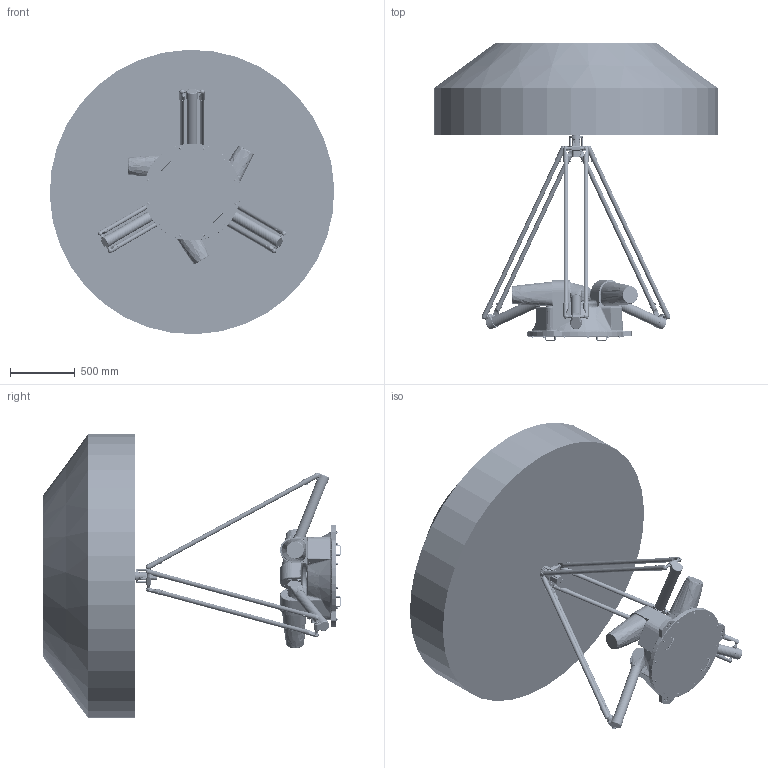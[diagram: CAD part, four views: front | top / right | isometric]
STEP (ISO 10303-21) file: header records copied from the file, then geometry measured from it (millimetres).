
FILE_DESCRIPTION (( 'STEP AP214' ), '1' );
FILE_NAME ('AP15X-2200-1544-T0-V3.0.0.STEP', '2024-12-18T06:51:54', ( '' ), ( '' ), 'SwSTEP 2.0', 'SolidWorks 2017', '' );
FILE_SCHEMA (( 'AUTOMOTIVE_DESIGN' ));
Length unit declared in the file: millimetre
Products named in the file (18): AP25X-2200-1544-T3-V2.0.0; AP15X-2200-1544-T10-V1.0.0; AP15X-2200-1544-T9-V2.0.0; AP15X-2200-1544-T2-V1.0.0; AP15X-2200-1544-T1-V1.0.1; AP15X-2200-1544-T0-V3.0.0
Assembly tree (12 placements, depth 2):
  AP25X-2200-1544-T3-V2.0.0
  AP25X-2200-1544-T3-V2.0.0
  AP25X-2200-1544-T3-V2.0.0
  AP15X-2200-1544-T10-V1.0.0
  AP15X-2200-1544-T9-V2.0.0
Bounding box: 2198.85 x 2304 x 2198.85 mm (x, y, z)
Volume: 2222076681.8 mm3; surface area: 17014717.9 mm2
Topology: 102 solids, 286 shells, 7290 faces, 19188 edges, 12293 vertices
Faces by surface type: plane 2440, bspline 2308, cylinder 1660, cone 663, torus 188, sphere 31
Full cylindrical faces by diameter (mm): 2 x4, 2.1 x1, 2.5 x4, 3 x3, 3.3 x36, 3.4 x3, 3.5 x8, 4 x15, 4.2 x48, 4.4 x14, 4.5 x22, 4.8 x1, 5 x86, 5.3 x1, 5.5 x24, 6 x8, 6.6 x14, 6.647 x36, 6.72 x3, 6.8 x12, 7 x24, 7.3 x2, 7.5 x6, 8 x62, 8.5 x2, 9 x8, 9.3 x2, 9.51 x2, 10 x19, 11 x8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
Entity records: 407139 total; most frequent: CARTESIAN_POINT 206012, ORIENTED_EDGE 29457, DIRECTION 21150, EDGE_CURVE 15232, VERTEX_POINT 10417, EDGE_LOOP 7768, AXIS2_PLACEMENT_3D 7704, FACE_OUTER_BOUND 6842
